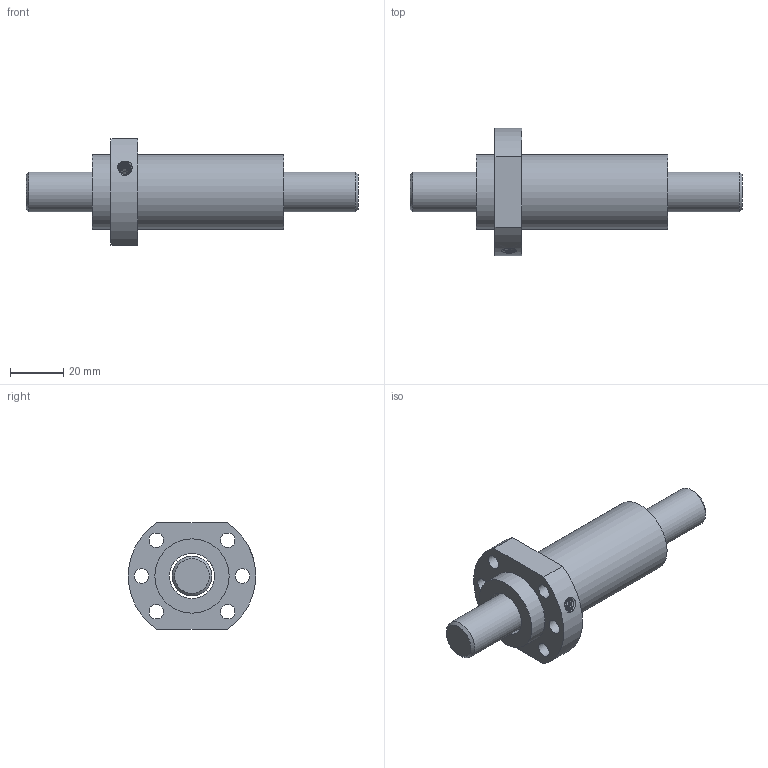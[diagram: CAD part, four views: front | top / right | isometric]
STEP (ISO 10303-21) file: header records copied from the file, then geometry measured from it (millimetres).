
FILE_DESCRIPTION(/* description */ ('Unknown','CAx-IF Rec.Pracs.---Representation and Presentation of Product Manufacturing Information (PMI)---4.0---2014-10-13','CAx-IF Rec.Pracs.---3D Tessellated Geometry---0.4---2014-09-14','2;1'),/* implementation_level */ '2;1');
FILE_NAME(/* name */ 'SFA1630-1.8',/* time_stamp */ '2020-12-08T08:18:09+08:00',/* author */ ('Unknown'),/* organization */ ('Unknown'),/* preprocessor_version */ 'ST-DEVELOPER v16.7',/* originating_system */ 'Solid Edge',/* authorisation */ 'Unknown');
FILE_SCHEMA (('AP242_MANAGED_MODEL_BASED_3D_ENGINEERING_MIM_LF { 1 0 10303 442 1 1 4 }'));
Length unit declared in the file: millimetre
Products named in the file (1): SFA1630-1.8
Bounding box: 125 x 48 x 40 mm (x, y, z)
Volume: 58832.9 mm3; surface area: 20862 mm2
Topology: 2 solids, 2 shells, 30 faces, 68 edges, 44 vertices
Faces by surface type: cylinder 16, plane 9, cone 3, bspline 2
Full cylindrical faces by diameter (mm): 4 x1, 4.917 x1, 5.5 x6, 15 x1, 17 x1, 28 x2
Entity records: 2932 total; most frequent: CARTESIAN_POINT 2230, DIRECTION 134, ORIENTED_EDGE 100, AXIS2_PLACEMENT_3D 64, EDGE_LOOP 63, FACE_BOUND 63, EDGE_CURVE 50, VERTEX_POINT 41
